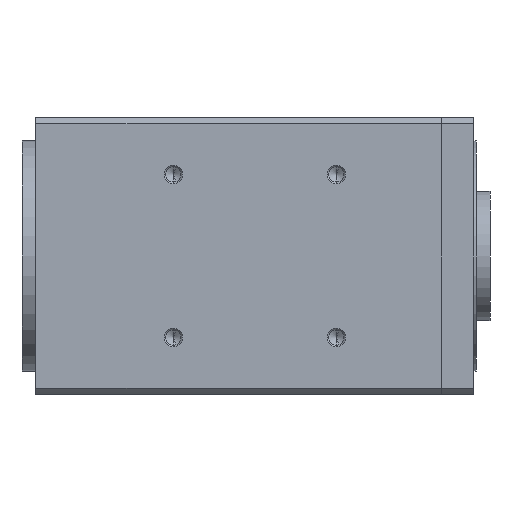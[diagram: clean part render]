
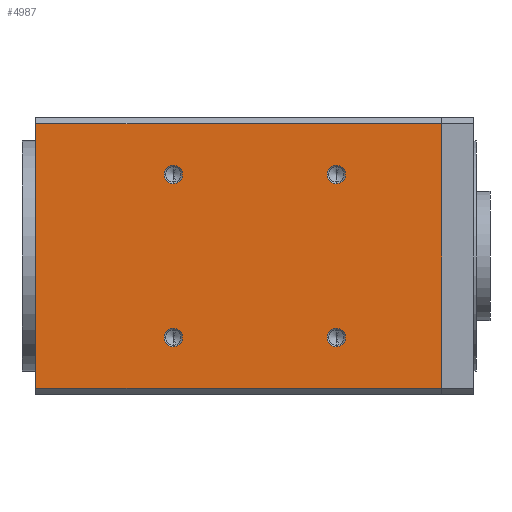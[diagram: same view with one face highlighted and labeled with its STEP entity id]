
A CAD part, left-side view. The second image highlights one B-rep face of the part: STEP entity #4987.
In plain terms, the highlighted planar face has unit normal (-1, 0, 0).
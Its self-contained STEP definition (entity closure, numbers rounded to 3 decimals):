
#281 = AXIS2_PLACEMENT_3D ( 'NONE', #5203, #5204, #5205 ) ;
#329 = EDGE_LOOP ( 'NONE', ( #3801, #3800 ) ) ;
#337 = EDGE_LOOP ( 'NONE', ( #3799, #3798 ) ) ;
#339 = EDGE_LOOP ( 'NONE', ( #3797, #3796 ) ) ;
#341 = EDGE_LOOP ( 'NONE', ( #3795, #3794 ) ) ;
#391 = EDGE_LOOP ( 'NONE', ( #3793, #3792, #3791, #3790 ) ) ;
#977 = VERTEX_POINT ( 'NONE', #1365 ) ;
#978 = VERTEX_POINT ( 'NONE', #1366 ) ;
#984 = VERTEX_POINT ( 'NONE', #1372 ) ;
#985 = VERTEX_POINT ( 'NONE', #1373 ) ;
#991 = VERTEX_POINT ( 'NONE', #1379 ) ;
#992 = VERTEX_POINT ( 'NONE', #1380 ) ;
#998 = VERTEX_POINT ( 'NONE', #1386 ) ;
#999 = VERTEX_POINT ( 'NONE', #5020 ) ;
#1365 = CARTESIAN_POINT ( 'NONE',  ( -30., 22.178, -19.678 ) ) ;
#1366 = CARTESIAN_POINT ( 'NONE',  ( -30., 22.178, -15.678 ) ) ;
#1372 = CARTESIAN_POINT ( 'NONE',  ( -30., 22.178, 15.678 ) ) ;
#1373 = CARTESIAN_POINT ( 'NONE',  ( -30., 22.178, 19.678 ) ) ;
#1379 = CARTESIAN_POINT ( 'NONE',  ( -30., -13.178, 15.678 ) ) ;
#1380 = CARTESIAN_POINT ( 'NONE',  ( -30., -13.178, 19.678 ) ) ;
#1386 = CARTESIAN_POINT ( 'NONE',  ( -30., -13.178, -19.678 ) ) ;
#1452 = CARTESIAN_POINT ( 'NONE',  ( -30., -36., 28.675 ) ) ;
#1453 = DIRECTION ( 'NONE',  ( 0., 1., 0. ) ) ;
#1457 = CARTESIAN_POINT ( 'NONE',  ( -30., 22.178, -17.678 ) ) ;
#1458 = DIRECTION ( 'NONE',  ( -1., 0., 0. ) ) ;
#1459 = DIRECTION ( 'NONE',  ( 0., 0., 1. ) ) ;
#1460 = CARTESIAN_POINT ( 'NONE',  ( -30., 22.178, 17.678 ) ) ;
#1461 = DIRECTION ( 'NONE',  ( -1., 0., 0. ) ) ;
#1462 = DIRECTION ( 'NONE',  ( 0., 0., 1. ) ) ;
#1463 = CARTESIAN_POINT ( 'NONE',  ( -30., -13.178, 17.678 ) ) ;
#1464 = DIRECTION ( 'NONE',  ( -1., 0., 0. ) ) ;
#1465 = DIRECTION ( 'NONE',  ( 0., 0., 1. ) ) ;
#1466 = CARTESIAN_POINT ( 'NONE',  ( -30., -13.178, -17.678 ) ) ;
#1467 = DIRECTION ( 'NONE',  ( -1., 0., 0. ) ) ;
#1468 = DIRECTION ( 'NONE',  ( 0., 0., 1. ) ) ;
#1469 = CARTESIAN_POINT ( 'NONE',  ( -30., 52., -28.675 ) ) ;
#1470 = DIRECTION ( 'NONE',  ( 0., 0., -1. ) ) ;
#1471 = CARTESIAN_POINT ( 'NONE',  ( -30., -36., -28.675 ) ) ;
#1472 = DIRECTION ( 'NONE',  ( 0., 1., 0. ) ) ;
#1473 = CARTESIAN_POINT ( 'NONE',  ( -30., -36., -28.675 ) ) ;
#1474 = DIRECTION ( 'NONE',  ( 0., 0., 1. ) ) ;
#1741 = LINE ( 'NONE', #1452, #1743 ) ;
#1743 = VECTOR ( 'NONE', #1453, 1000. ) ;
#1745 = CIRCLE ( 'NONE', #4889, 2. ) ;
#1746 = CIRCLE ( 'NONE', #4890, 2. ) ;
#1747 = CIRCLE ( 'NONE', #4891, 2. ) ;
#1748 = LINE ( 'NONE', #1469, #1750 ) ;
#1749 = CIRCLE ( 'NONE', #4892, 2. ) ;
#1750 = VECTOR ( 'NONE', #1470, 1000. ) ;
#1751 = LINE ( 'NONE', #1471, #1752 ) ;
#1752 = VECTOR ( 'NONE', #1472, 1000. ) ;
#1753 = LINE ( 'NONE', #1473, #1754 ) ;
#1754 = VECTOR ( 'NONE', #1474, 1000. ) ;
#2237 = FACE_BOUND ( 'NONE', #329, .T. ) ;
#2238 = FACE_BOUND ( 'NONE', #337, .T. ) ;
#2239 = FACE_BOUND ( 'NONE', #339, .T. ) ;
#2240 = FACE_BOUND ( 'NONE', #341, .T. ) ;
#2241 = FACE_OUTER_BOUND ( 'NONE', #391, .T. ) ;
#2457 = EDGE_CURVE ( 'NONE', #998, #999, #6274, .T. ) ;
#2819 = AXIS2_PLACEMENT_3D ( 'NONE', #5473, #5474, #5475 ) ;
#2869 = AXIS2_PLACEMENT_3D ( 'NONE', #3222, #3223, #3224 ) ;
#2872 = AXIS2_PLACEMENT_3D ( 'NONE', #3243, #3244, #3245 ) ;
#2875 = AXIS2_PLACEMENT_3D ( 'NONE', #3264, #3265, #3266 ) ;
#3010 = EDGE_CURVE ( 'NONE', #5897, #5896, #1741, .T. ) ;
#3012 = EDGE_CURVE ( 'NONE', #978, #977, #1745, .T. ) ;
#3013 = EDGE_CURVE ( 'NONE', #985, #984, #1746, .T. ) ;
#3014 = EDGE_CURVE ( 'NONE', #992, #991, #1747, .T. ) ;
#3015 = EDGE_CURVE ( 'NONE', #999, #998, #1749, .T. ) ;
#3016 = EDGE_CURVE ( 'NONE', #5896, #5898, #1748, .T. ) ;
#3017 = EDGE_CURVE ( 'NONE', #5899, #5898, #1751, .T. ) ;
#3018 = EDGE_CURVE ( 'NONE', #5899, #5897, #1753, .T. ) ;
#3222 = CARTESIAN_POINT ( 'NONE',  ( -30., 22.178, -17.678 ) ) ;
#3223 = DIRECTION ( 'NONE',  ( -1., 0., 0. ) ) ;
#3224 = DIRECTION ( 'NONE',  ( 0., 0., 1. ) ) ;
#3243 = CARTESIAN_POINT ( 'NONE',  ( -30., 22.178, 17.678 ) ) ;
#3244 = DIRECTION ( 'NONE',  ( -1., 0., 0. ) ) ;
#3245 = DIRECTION ( 'NONE',  ( 0., 0., 1. ) ) ;
#3264 = CARTESIAN_POINT ( 'NONE',  ( -30., -13.178, 17.678 ) ) ;
#3265 = DIRECTION ( 'NONE',  ( -1., 0., 0. ) ) ;
#3266 = DIRECTION ( 'NONE',  ( 0., 0., 1. ) ) ;
#3429 = CIRCLE ( 'NONE', #2869, 2. ) ;
#3444 = CIRCLE ( 'NONE', #2872, 2. ) ;
#3459 = CIRCLE ( 'NONE', #2875, 2. ) ;
#3790 = ORIENTED_EDGE ( 'NONE', *, *, #3018, .T. ) ;
#3791 = ORIENTED_EDGE ( 'NONE', *, *, #3017, .F. ) ;
#3792 = ORIENTED_EDGE ( 'NONE', *, *, #3016, .T. ) ;
#3793 = ORIENTED_EDGE ( 'NONE', *, *, #3010, .T. ) ;
#3794 = ORIENTED_EDGE ( 'NONE', *, *, #2457, .F. ) ;
#3795 = ORIENTED_EDGE ( 'NONE', *, *, #3015, .F. ) ;
#3796 = ORIENTED_EDGE ( 'NONE', *, *, #5729, .F. ) ;
#3797 = ORIENTED_EDGE ( 'NONE', *, *, #3014, .F. ) ;
#3798 = ORIENTED_EDGE ( 'NONE', *, *, #5720, .F. ) ;
#3799 = ORIENTED_EDGE ( 'NONE', *, *, #3013, .F. ) ;
#3800 = ORIENTED_EDGE ( 'NONE', *, *, #5711, .F. ) ;
#3801 = ORIENTED_EDGE ( 'NONE', *, *, #3012, .F. ) ;
#4889 = AXIS2_PLACEMENT_3D ( 'NONE', #1457, #1458, #1459 ) ;
#4890 = AXIS2_PLACEMENT_3D ( 'NONE', #1460, #1461, #1462 ) ;
#4891 = AXIS2_PLACEMENT_3D ( 'NONE', #1463, #1464, #1465 ) ;
#4892 = AXIS2_PLACEMENT_3D ( 'NONE', #1466, #1467, #1468 ) ;
#4987 = ADVANCED_FACE ( 'NONE', ( #2237, #2238, #2239, #2240, #2241 ), #5472, .T. ) ;
#5020 = CARTESIAN_POINT ( 'NONE',  ( -30., -13.178, -15.678 ) ) ;
#5203 = CARTESIAN_POINT ( 'NONE',  ( -30., -13.178, -17.678 ) ) ;
#5204 = DIRECTION ( 'NONE',  ( -1., 0., 0. ) ) ;
#5205 = DIRECTION ( 'NONE',  ( 0., 0., 1. ) ) ;
#5472 = PLANE ( 'NONE',  #2819 ) ;
#5473 = CARTESIAN_POINT ( 'NONE',  ( -30., -36., -28.675 ) ) ;
#5474 = DIRECTION ( 'NONE',  ( -1., 0., 0. ) ) ;
#5475 = DIRECTION ( 'NONE',  ( 0., 0., 1. ) ) ;
#5711 = EDGE_CURVE ( 'NONE', #977, #978, #3429, .T. ) ;
#5720 = EDGE_CURVE ( 'NONE', #984, #985, #3444, .T. ) ;
#5729 = EDGE_CURVE ( 'NONE', #991, #992, #3459, .T. ) ;
#5896 = VERTEX_POINT ( 'NONE', #6624 ) ;
#5897 = VERTEX_POINT ( 'NONE', #6625 ) ;
#5898 = VERTEX_POINT ( 'NONE', #6626 ) ;
#5899 = VERTEX_POINT ( 'NONE', #6627 ) ;
#6274 = CIRCLE ( 'NONE', #281, 2. ) ;
#6624 = CARTESIAN_POINT ( 'NONE',  ( -30., 52., 28.675 ) ) ;
#6625 = CARTESIAN_POINT ( 'NONE',  ( -30., -36., 28.675 ) ) ;
#6626 = CARTESIAN_POINT ( 'NONE',  ( -30., 52., -28.675 ) ) ;
#6627 = CARTESIAN_POINT ( 'NONE',  ( -30., -36., -28.675 ) ) ;
